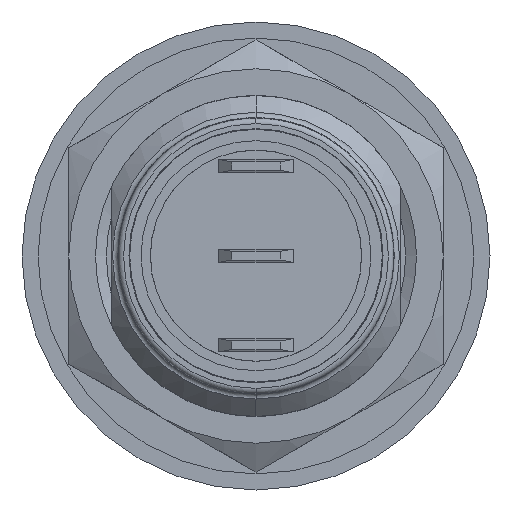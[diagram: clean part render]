
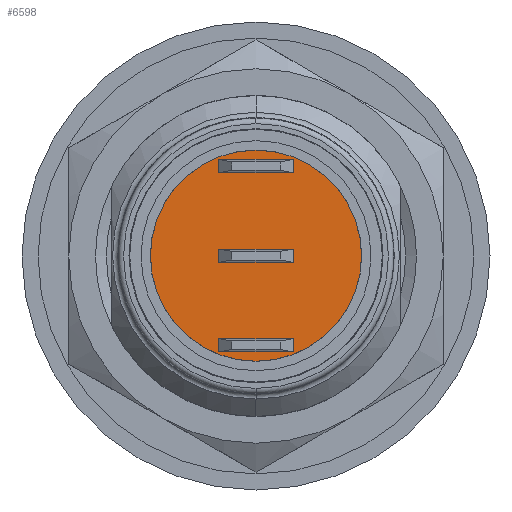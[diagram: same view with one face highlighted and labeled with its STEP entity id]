
A CAD part, front view. The second image highlights one B-rep face of the part: STEP entity #6598.
In plain terms, the highlighted planar face has unit normal (0, -1, 0).
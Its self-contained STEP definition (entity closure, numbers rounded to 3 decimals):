
#1249=CARTESIAN_POINT('',(0.,-1.,0.));
#1250=DIRECTION('',(0.,1.,0.));
#1251=DIRECTION('',(0.,0.,-1.));
#1252=AXIS2_PLACEMENT_3D('',#1249,#1250,#1251);
#1254=CARTESIAN_POINT('',(0.,-1.,0.));
#1255=DIRECTION('',(0.,1.,0.));
#1256=DIRECTION('',(0.,0.,1.));
#1257=AXIS2_PLACEMENT_3D('',#1254,#1255,#1256);
#1267=DIRECTION('',(1.,0.,0.));
#1268=VECTOR('',#1267,2.8);
#1269=CARTESIAN_POINT('',(-1.4,-1.,3.1));
#1270=LINE('',#1269,#1268);
#1301=DIRECTION('',(0.,0.,-1.));
#1302=VECTOR('',#1301,0.5);
#1303=CARTESIAN_POINT('',(-1.4,-1.,3.6));
#1304=LINE('',#1303,#1302);
#1305=DIRECTION('',(1.,0.,0.));
#1306=VECTOR('',#1305,2.8);
#1307=CARTESIAN_POINT('',(-1.4,-1.,3.6));
#1308=LINE('',#1307,#1306);
#1339=DIRECTION('',(0.,0.,-1.));
#1340=VECTOR('',#1339,0.5);
#1341=CARTESIAN_POINT('',(1.4,-1.,3.6));
#1342=LINE('',#1341,#1340);
#1399=DIRECTION('',(-1.,0.,0.));
#1400=VECTOR('',#1399,2.8);
#1401=CARTESIAN_POINT('',(1.4,-1.,0.25));
#1402=LINE('',#1401,#1400);
#1433=DIRECTION('',(0.,0.,1.));
#1434=VECTOR('',#1433,0.5);
#1435=CARTESIAN_POINT('',(1.4,-1.,-0.25));
#1436=LINE('',#1435,#1434);
#1437=DIRECTION('',(-1.,0.,0.));
#1438=VECTOR('',#1437,2.8);
#1439=CARTESIAN_POINT('',(1.4,-1.,-0.25));
#1440=LINE('',#1439,#1438);
#1471=DIRECTION('',(0.,0.,1.));
#1472=VECTOR('',#1471,0.5);
#1473=CARTESIAN_POINT('',(-1.4,-1.,-0.25));
#1474=LINE('',#1473,#1472);
#1531=DIRECTION('',(-1.,0.,0.));
#1532=VECTOR('',#1531,2.8);
#1533=CARTESIAN_POINT('',(1.4,-1.,-3.6));
#1534=LINE('',#1533,#1532);
#1581=DIRECTION('',(0.,0.,-1.));
#1582=VECTOR('',#1581,0.5);
#1583=CARTESIAN_POINT('',(-1.4,-1.,-3.1));
#1584=LINE('',#1583,#1582);
#1589=DIRECTION('',(-1.,0.,0.));
#1590=VECTOR('',#1589,2.8);
#1591=CARTESIAN_POINT('',(1.4,-1.,-3.1));
#1592=LINE('',#1591,#1590);
#1623=DIRECTION('',(0.,0.,-1.));
#1624=VECTOR('',#1623,0.5);
#1625=CARTESIAN_POINT('',(1.4,-1.,-3.1));
#1626=LINE('',#1625,#1624);
#5200=CARTESIAN_POINT('',(0.,-1.,-3.947));
#5201=CARTESIAN_POINT('',(0.,-1.,3.947));
#5202=VERTEX_POINT('',#5200);
#5203=VERTEX_POINT('',#5201);
#5216=CARTESIAN_POINT('',(-1.4,-1.,3.1));
#5217=CARTESIAN_POINT('',(1.4,-1.,3.1));
#5218=VERTEX_POINT('',#5216);
#5219=VERTEX_POINT('',#5217);
#5224=CARTESIAN_POINT('',(-1.4,-1.,3.6));
#5225=CARTESIAN_POINT('',(1.4,-1.,3.6));
#5226=VERTEX_POINT('',#5224);
#5227=VERTEX_POINT('',#5225);
#5228=CARTESIAN_POINT('',(1.4,-1.,0.25));
#5229=CARTESIAN_POINT('',(-1.4,-1.,0.25));
#5230=VERTEX_POINT('',#5228);
#5231=VERTEX_POINT('',#5229);
#5236=CARTESIAN_POINT('',(1.4,-1.,-0.25));
#5237=CARTESIAN_POINT('',(-1.4,-1.,-0.25));
#5238=VERTEX_POINT('',#5236);
#5239=VERTEX_POINT('',#5237);
#5240=CARTESIAN_POINT('',(1.4,-1.,-3.6));
#5241=CARTESIAN_POINT('',(-1.4,-1.,-3.6));
#5242=VERTEX_POINT('',#5240);
#5243=VERTEX_POINT('',#5241);
#5244=CARTESIAN_POINT('',(1.4,-1.,-3.1));
#5245=CARTESIAN_POINT('',(-1.4,-1.,-3.1));
#5246=VERTEX_POINT('',#5244);
#5247=VERTEX_POINT('',#5245);
#6558=CARTESIAN_POINT('',(0.,-1.,0.));
#6559=DIRECTION('',(0.,1.,0.));
#6560=DIRECTION('',(1.,0.,0.));
#6561=AXIS2_PLACEMENT_3D('',#6558,#6559,#6560);
#6562=PLANE('',#6561);
#6563=ORIENTED_EDGE('',*,*,#6548,.T.);
#6565=ORIENTED_EDGE('',*,*,#6564,.T.);
#6566=EDGE_LOOP('',(#6563,#6565));
#6567=FACE_OUTER_BOUND('',#6566,.F.);
#6569=ORIENTED_EDGE('',*,*,#6568,.T.);
#6571=ORIENTED_EDGE('',*,*,#6570,.F.);
#6573=ORIENTED_EDGE('',*,*,#6572,.F.);
#6575=ORIENTED_EDGE('',*,*,#6574,.T.);
#6576=EDGE_LOOP('',(#6569,#6571,#6573,#6575));
#6577=FACE_BOUND('',#6576,.F.);
#6579=ORIENTED_EDGE('',*,*,#6578,.T.);
#6581=ORIENTED_EDGE('',*,*,#6580,.F.);
#6583=ORIENTED_EDGE('',*,*,#6582,.F.);
#6585=ORIENTED_EDGE('',*,*,#6584,.T.);
#6586=EDGE_LOOP('',(#6579,#6581,#6583,#6585));
#6587=FACE_BOUND('',#6586,.F.);
#6589=ORIENTED_EDGE('',*,*,#6588,.F.);
#6591=ORIENTED_EDGE('',*,*,#6590,.F.);
#6593=ORIENTED_EDGE('',*,*,#6592,.T.);
#6595=ORIENTED_EDGE('',*,*,#6594,.T.);
#6596=EDGE_LOOP('',(#6589,#6591,#6593,#6595));
#6597=FACE_BOUND('',#6596,.F.);
#6598=ADVANCED_FACE('',(#6567,#6577,#6587,#6597),#6562,.F.);
#1253=CIRCLE('',#1252,3.947);
#1258=CIRCLE('',#1257,3.947);
#6548=EDGE_CURVE('',#5202,#5203,#1253,.T.);
#6564=EDGE_CURVE('',#5203,#5202,#1258,.T.);
#6568=EDGE_CURVE('',#5218,#5219,#1270,.T.);
#6570=EDGE_CURVE('',#5227,#5219,#1342,.T.);
#6572=EDGE_CURVE('',#5226,#5227,#1308,.T.);
#6574=EDGE_CURVE('',#5226,#5218,#1304,.T.);
#6578=EDGE_CURVE('',#5230,#5231,#1402,.T.);
#6580=EDGE_CURVE('',#5239,#5231,#1474,.T.);
#6582=EDGE_CURVE('',#5238,#5239,#1440,.T.);
#6584=EDGE_CURVE('',#5238,#5230,#1436,.T.);
#6588=EDGE_CURVE('',#5242,#5243,#1534,.T.);
#6590=EDGE_CURVE('',#5246,#5242,#1626,.T.);
#6592=EDGE_CURVE('',#5246,#5247,#1592,.T.);
#6594=EDGE_CURVE('',#5247,#5243,#1584,.T.);
